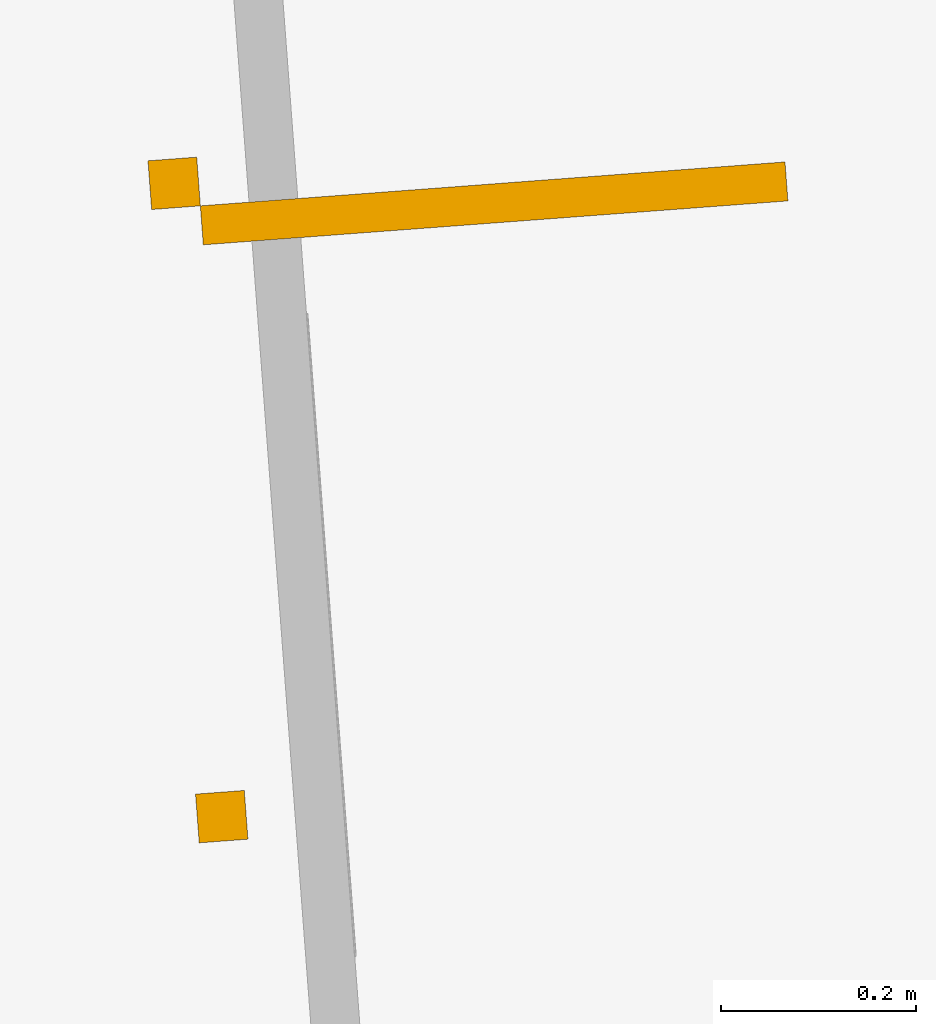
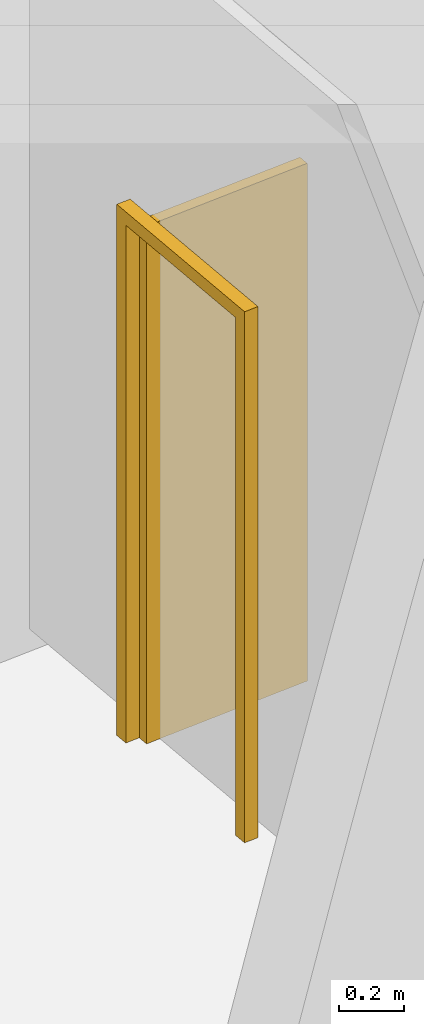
# Not in any storey, part 16 of 16: 1 door.
"""IFC2X3 model written with IfcOpenShell, lengths in millimetres."""

from ifc_helpers import new_model, entity, si_unit, converted_unit, direction, frame, origin_with_axes, place, context, project, spatial, faceted_brep, source, transform, mapped, type_object, element, save


model = new_model("IFC2X3")

# Units and contexts
model_context = context("Model", 3, precision=1.0, world=origin_with_axes(), true_north=direction((0.0, 1.0)))
ifc_project = project(units=[converted_unit("PLANEANGLEUNIT", "DEGREE", entity("IfcRatioMeasure", 0.017453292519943), si_unit("PLANEANGLEUNIT", "RADIAN"), dimensions=[0, 0, 0, 0, 0, 0, 0]), si_unit("LENGTHUNIT", "METRE", prefix="MILLI")], contexts=[model_context])

# Site
site_placement = place(None, origin_with_axes())
site = spatial("IfcSite", under=ifc_project, at=site_placement, Name="Site", CompositionType="ELEMENT")

# Door
door_style = type_object("IfcDoorStyle", Name="Hinged", ConstructionType="NOTDEFINED", OperationType="SINGLE_SWING_LEFT", ParameterTakesPrecedence=True, Sizeable=False)
shared_shape = source(origin_with_axes(), model_context, "Body", "Brep", [
    faceted_brep([(-300.0, 625.0, -1.819e-12), (-300.0, 325.0, -1.819e-12), (-300.0, 25.0, -1.819e-12), (-300.0, 25.0, 975.0), (-300.0, 25.0, 1950.0), (-300.0, 325.0, 1950.0), (-300.0, 625.0, 1950.0), (-300.0, 625.0, 975.0), (-260.0, 25.0, 1950.0), (-300.0, 25.0, 1950.0), (-300.0, 25.0, 975.0), (-300.0, 25.0, -1.819e-12), (-260.0, 25.0, -1.819e-12), (-260.0, 25.0, 975.0), (-260.0, 625.0, 975.0), (-260.0, 625.0, 1950.0), (-260.0, 325.0, 1950.0), (-260.0, 25.0, 1950.0), (-260.0, 25.0, 975.0), (-260.0, 25.0, -1.819e-12), (-260.0, 325.0, -1.819e-12), (-260.0, 625.0, -1.819e-12), (-260.0, 25.0, -1.819e-12), (-300.0, 25.0, -1.819e-12), (-300.0, 325.0, -1.819e-12), (-300.0, 625.0, -1.819e-12), (-260.0, 625.0, -1.819e-12), (-260.0, 325.0, -1.819e-12), (-260.0, 625.0, 1950.0), (-300.0, 625.0, 1950.0), (-300.0, 325.0, 1950.0), (-300.0, 25.0, 1950.0), (-260.0, 25.0, 1950.0), (-260.0, 325.0, 1950.0), (-260.0, 625.0, -1.819e-12), (-300.0, 625.0, -1.819e-12), (-300.0, 625.0, 975.0), (-300.0, 625.0, 1950.0), (-260.0, 625.0, 1950.0), (-260.0, 625.0, 975.0)], [[[0, 1, 2, 3, 4, 5, 6, 7]], [[8, 9, 10, 11, 12, 13]], [[14, 15, 16, 17, 18, 19, 20, 21]], [[22, 23, 24, 25, 26, 27]], [[28, 29, 30, 31, 32, 33]], [[34, 35, 36, 37, 38, 39]]]),
    faceted_brep([(350.0, -25.0, -1.819e-12), (350.0, -25.0, 1000.0), (350.0, -25.0, 2000.0), (-9.09e-13, -25.0, 2000.0), (-350.0, -25.0, 2000.0), (-350.0, -25.0, 1000.0), (-350.0, -25.0, -1.819e-12), (-325.0, -25.0, -1.819e-12), (-300.0, -25.0, -1.819e-12), (-300.0, -25.0, 975.0), (-300.0, -25.0, 1950.0), (9.09e-13, -25.0, 1950.0), (300.0, -25.0, 1950.0), (300.0, -25.0, 975.0), (300.0, -25.0, -1.819e-12), (325.0, -25.0, -1.819e-12), (300.0, -25.0, 1950.0), (300.0, 25.0, 1950.0), (300.0, 25.0, 975.0), (300.0, 25.0, -1.819e-12), (300.0, -3.638e-12, -1.819e-12), (300.0, -25.0, -1.819e-12), (300.0, -25.0, 975.0), (-300.0, -25.0, 1950.0), (-300.0, 25.0, 1950.0), (-9.09e-13, 25.0, 1950.0), (300.0, 25.0, 1950.0), (300.0, -25.0, 1950.0), (9.09e-13, -25.0, 1950.0), (350.0, -25.0, 1000.0), (350.0, -25.0, -1.819e-12), (350.0, 0.0, -1.819e-12), (350.0, 25.0, -1.819e-12), (350.0, 25.0, 1000.0), (350.0, 25.0, 2000.0), (350.0, -25.0, 2000.0), (-300.0, -25.0, 975.0), (-300.0, -25.0, -1.819e-12), (-300.0, 0.0, -1.819e-12), (-300.0, 25.0, -1.819e-12), (-300.0, 25.0, 975.0), (-300.0, 25.0, 1950.0), (-300.0, -25.0, 1950.0), (-350.0, -25.0, 2000.0), (-350.0, 25.0, 2000.0), (-350.0, 25.0, 1000.0), (-350.0, 25.0, -1.819e-12), (-350.0, 3.638e-12, -1.819e-12), (-350.0, -25.0, -1.819e-12), (-350.0, -25.0, 1000.0), (-325.0, -25.0, -1.819e-12), (-350.0, -25.0, -1.819e-12), (-350.0, 3.638e-12, -1.819e-12), (-350.0, 25.0, -1.819e-12), (-325.0, 25.0, -1.819e-12), (-300.0, 25.0, -1.819e-12), (-300.0, 0.0, -1.819e-12), (-300.0, -25.0, -1.819e-12), (350.0, -25.0, 2000.0), (350.0, 25.0, 2000.0), (9.09e-13, 25.0, 2000.0), (-350.0, 25.0, 2000.0), (-350.0, -25.0, 2000.0), (-9.09e-13, -25.0, 2000.0), (325.0, -25.0, -1.819e-12), (300.0, -25.0, -1.819e-12), (300.0, -3.638e-12, -1.819e-12), (300.0, 25.0, -1.819e-12), (325.0, 25.0, -1.819e-12), (350.0, 25.0, -1.819e-12), (350.0, 0.0, -1.819e-12), (350.0, -25.0, -1.819e-12), (350.0, 25.0, 1000.0), (350.0, 25.0, -1.819e-12), (325.0, 25.0, -1.819e-12), (300.0, 25.0, -1.819e-12), (300.0, 25.0, 975.0), (300.0, 25.0, 1950.0), (-9.09e-13, 25.0, 1950.0), (-300.0, 25.0, 1950.0), (-300.0, 25.0, 975.0), (-300.0, 25.0, -1.819e-12), (-325.0, 25.0, -1.819e-12), (-350.0, 25.0, -1.819e-12), (-350.0, 25.0, 1000.0), (-350.0, 25.0, 2000.0), (9.09e-13, 25.0, 2000.0), (350.0, 25.0, 2000.0)], [[[0, 1, 2, 3, 4, 5, 6, 7, 8, 9, 10, 11, 12, 13, 14, 15]], [[16, 17, 18, 19, 20, 21, 22]], [[23, 24, 25, 26, 27, 28]], [[29, 30, 31, 32, 33, 34, 35]], [[36, 37, 38, 39, 40, 41, 42]], [[43, 44, 45, 46, 47, 48, 49]], [[50, 51, 52, 53, 54, 55, 56, 57]], [[58, 59, 60, 61, 62, 63]], [[64, 65, 66, 67, 68, 69, 70, 71]], [[72, 73, 74, 75, 76, 77, 78, 79, 80, 81, 82, 83, 84, 85, 86, 87]]]),
])
door_placement = place(site_placement, frame((45521.4381028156, 13102.6117526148, 9850.0), z_axis=(0.0, 0.0, 1.0), x_axis=(0.07489535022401, -0.997191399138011, 0.0)))
element("IfcDoor", 1, at=door_placement, inside=site, type_object=door_style, ObjectType="Hinged", OverallHeight=2000.0, OverallWidth=700.0, context=model_context, shape_type="MappedRepresentation", body=[
    mapped(shared_shape, transform((0.0, 0.0, 0.0))),
])

save(model, "model.ifc")
